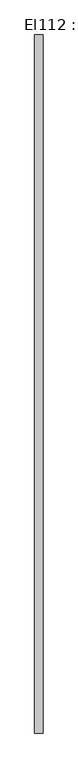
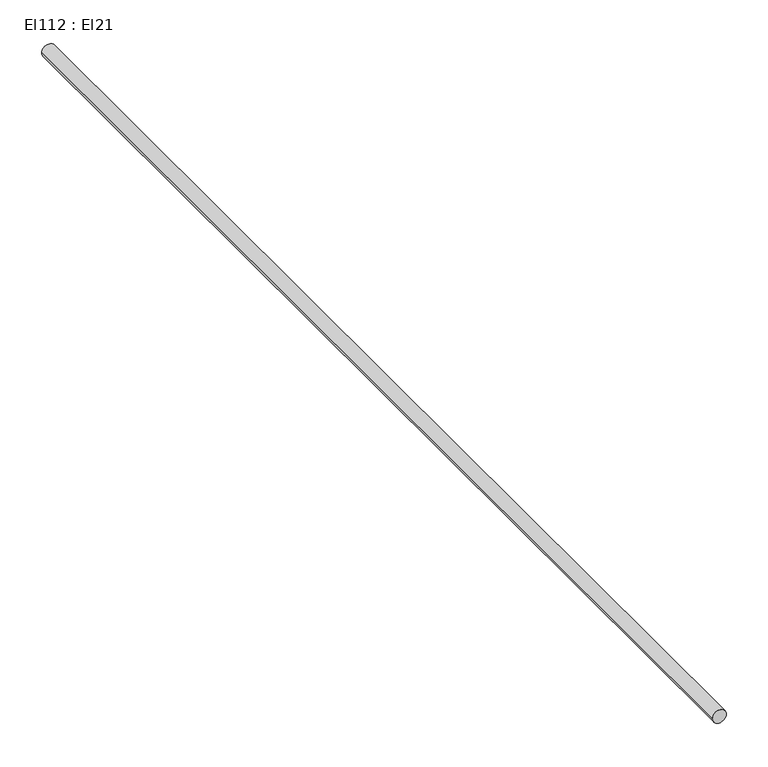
"""IFC4 building model written with IfcOpenShell, lengths in millimetres: cable carrier segment geometry, El112 : El21."""

from ifc_helpers import new_model, si_unit, point, frame, frame_2d, origin, place, context, project, spatial, circle_curve, trimmed, segment, composite_curve, outline, extrude, source, transform, mapped, element, save


def el112_el21_6166761d(model_context):
    return source(origin(), model_context, "Body", "SweptSolid", [
        extrude(outline(composite_curve([segment(trimmed(circle_curve(frame_2d((1800.0, 2714.4746511)), 9.5), [point((1800.0, 2704.9746511))], [point((1800.0, 2723.9746511))], False, "CARTESIAN"), True, "CONTINUOUS"), segment(trimmed(circle_curve(frame_2d((1800.0, 2714.4746511)), 9.5), [point((1800.0, 2723.9746511))], [point((1800.0, 2704.9746511))], False, "CARTESIAN"), True, "CONTINUOUS")], self_intersect=False)), frame((0.0, 8293.2651745, 0.0), z_axis=(0.0, 1.0, 0.0), x_axis=(0.0, 0.0, 1.0)), (0.0, 0.0, 1.0), 1604.69),
    ])


if __name__ == "__main__":
    model = new_model("IFC4")
    model_context = context("Model", 3, world=origin())
    ifc_project = project(units=[si_unit("LENGTHUNIT", "METRE", prefix="MILLI")], contexts=[model_context])
    site = spatial("IfcSite", under=ifc_project)
    building = spatial("IfcBuilding", under=site)
    placement = place(None, origin())
    el112_el21_shape = el112_el21_6166761d(model_context)
    element("IfcCableCarrierSegment", 1, ObjectType="El112 : El21", at=placement, inside=building, context=model_context, shape_type="MappedRepresentation", body=[
        mapped(el112_el21_shape, transform((0.0, 0.0, 0.0), x_axis=(1.0, 0.0, 0.0), y_axis=(0.0, 1.0, 0.0), z_axis=(0.0, 0.0, 1.0))),
    ])
    save(model, "model.ifc")
